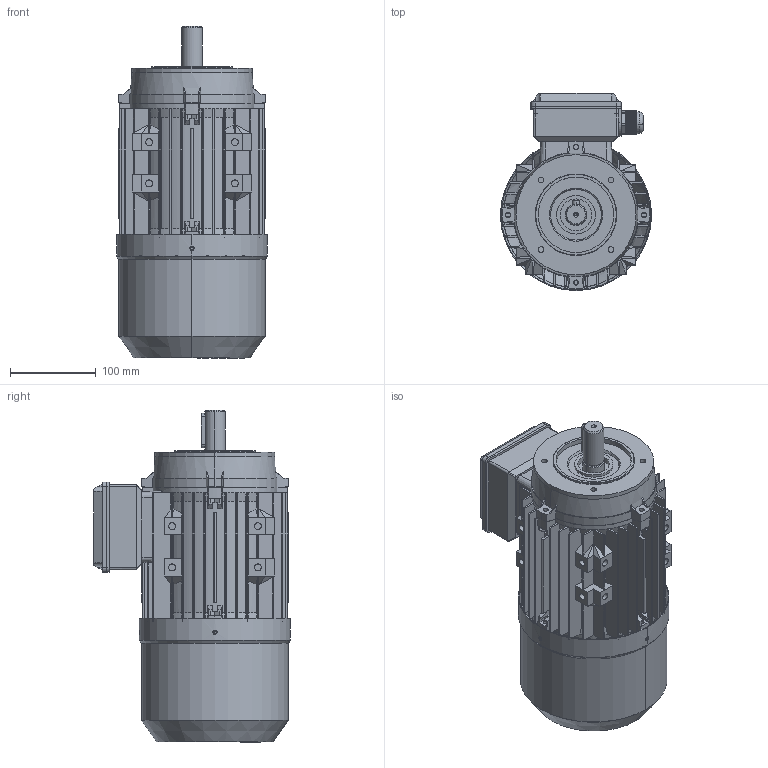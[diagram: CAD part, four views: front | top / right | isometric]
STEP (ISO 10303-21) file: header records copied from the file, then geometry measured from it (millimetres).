
FILE_DESCRIPTION (( 'STEP AP214' ), '1' );
FILE_NAME ('BMS90L1_B14.STEP', '2013-10-23T12:35:15', ( 'Frank Wennekamp' ), ( '' ), 'SwSTEP 2.0', 'SolidWorks 2012', '' );
FILE_SCHEMA (( 'AUTOMOTIVE_DESIGN' ));
Length unit declared in the file: millimetre
Products named in the file (9): Kabelverschraubung_M20; BRE-Haube_BMS90; Klemmenkastendeckel_MS90; Klemmenkastenunterteil_MS90; L黤terfl黦el_MS90; B-Lagerschild_MS90; B14-Flansch_MS90; Gehäuse_MS90L1; BMS90L1_B14
Assembly tree (8 placements, depth 2):
  BMS90L1_B14
    Gehäuse_MS90L1
    B14-Flansch_MS90
    B-Lagerschild_MS90
    L黤terfl黦el_MS90
    Klemmenkastenunterteil_MS90
    Klemmenkastendeckel_MS90
    BRE-Haube_BMS90
    Kabelverschraubung_M20
Bounding box: 176 x 229.5 x 387 mm (x, y, z)
Volume: 1305582.1 mm3; surface area: 788474 mm2
Topology: 8 solids, 8 shells, 2803 faces, 7611 edges, 4926 vertices
Faces by surface type: plane 1923, cylinder 589, bspline 172, cone 119
Entity records: 99942 total; most frequent: CARTESIAN_POINT 30326, ORIENTED_EDGE 15194, DIRECTION 12959, EDGE_CURVE 7597, LINE 5359, VECTOR 5359, VERTEX_POINT 4926, AXIS2_PLACEMENT_3D 3800
